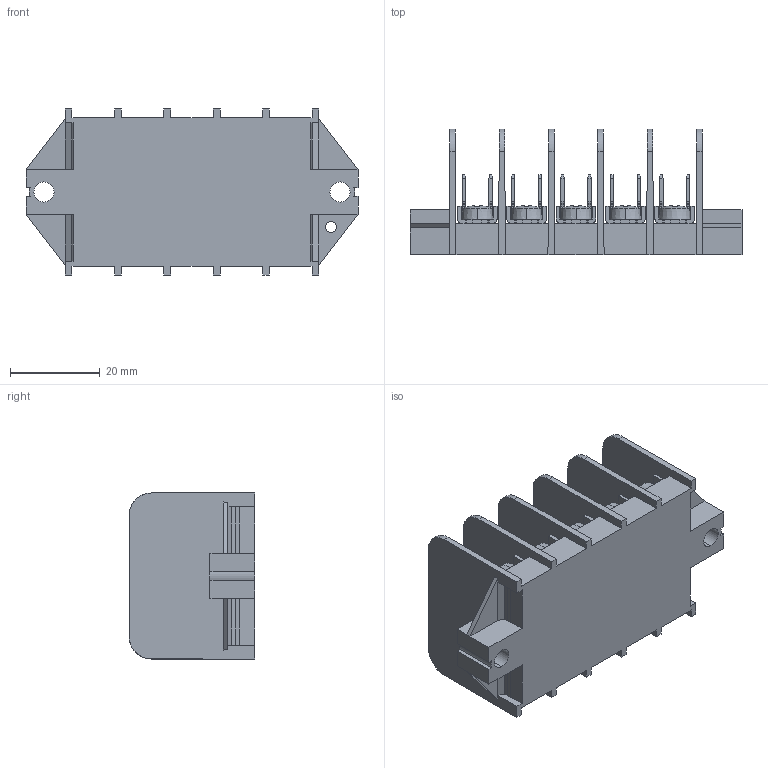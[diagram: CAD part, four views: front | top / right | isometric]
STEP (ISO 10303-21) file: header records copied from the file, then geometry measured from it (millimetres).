
FILE_DESCRIPTION (( 'STEP AP203' ), '1' );
FILE_NAME ('308-PA-101-05.STEP', '2018-05-23T21:29:21', ( '' ), ( '' ), 'SwSTEP 2.0', 'SolidWorks 2016', '' );
FILE_SCHEMA (( 'CONFIG_CONTROL_DESIGN' ));
Length unit declared in the file: millimetre
Products named in the file (1): 308-PA-101-05
Bounding box: 74 x 28 x 37 mm (x, y, z)
Volume: 22727.3 mm3; surface area: 21128.8 mm2
Topology: 1 solids, 6 shells, 1639 faces, 4647 edges, 2980 vertices
Faces by surface type: plane 1029, cylinder 510, bspline 55, cone 45
Entity records: 55782 total; most frequent: CARTESIAN_POINT 13779, ORIENTED_EDGE 9274, DIRECTION 8177, EDGE_CURVE 4637, LINE 3119, VECTOR 3119, VERTEX_POINT 2980, AXIS2_PLACEMENT_3D 2529
